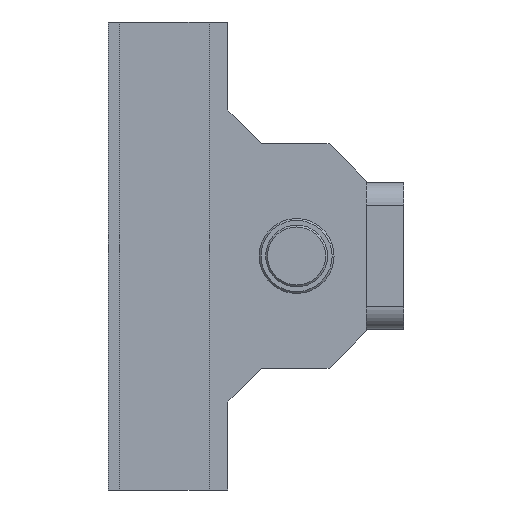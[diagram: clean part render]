
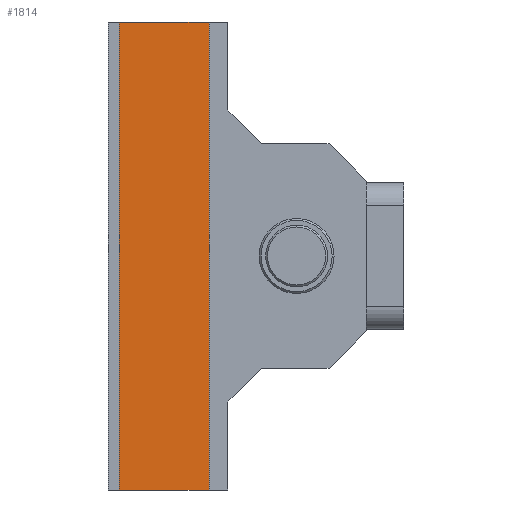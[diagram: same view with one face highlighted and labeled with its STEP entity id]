
A CAD part, left-side view. The second image highlights one B-rep face of the part: STEP entity #1814.
In plain terms, the highlighted planar face has unit normal (-1, 0, 0).
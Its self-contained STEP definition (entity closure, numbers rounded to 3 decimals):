
#61 = ORIENTED_EDGE ( 'NONE', *, *, #1948, .T. ) ;
#106 = EDGE_LOOP ( 'NONE', ( #2628, #61, #1365, #191 ) ) ;
#191 = ORIENTED_EDGE ( 'NONE', *, *, #1598, .F. ) ;
#213 = VECTOR ( 'NONE', #270, 1000. ) ;
#270 = DIRECTION ( 'NONE',  ( 0., 0., -1. ) ) ;
#332 = CARTESIAN_POINT ( 'NONE',  ( -16.5, 86., -62.5 ) ) ;
#355 = VERTEX_POINT ( 'NONE', #473 ) ;
#473 = CARTESIAN_POINT ( 'NONE',  ( -16.5, 62., -62.5 ) ) ;
#558 = CARTESIAN_POINT ( 'NONE',  ( -16.5, 86., 62.5 ) ) ;
#602 = DIRECTION ( 'NONE',  ( 0., -1., 0. ) ) ;
#852 = LINE ( 'NONE', #1911, #213 ) ;
#946 = EDGE_CURVE ( 'NONE', #1690, #355, #852, .T. ) ;
#1096 = CARTESIAN_POINT ( 'NONE',  ( -16.5, 86., 62.5 ) ) ;
#1105 = DIRECTION ( 'NONE',  ( 0., 1., 0. ) ) ;
#1160 = AXIS2_PLACEMENT_3D ( 'NONE', #1096, #1512, #1105 ) ;
#1185 = CARTESIAN_POINT ( 'NONE',  ( -16.5, 62., 62.5 ) ) ;
#1194 = LINE ( 'NONE', #2562, #1713 ) ;
#1245 = PLANE ( 'NONE',  #1160 ) ;
#1357 = DIRECTION ( 'NONE',  ( 0., -1., 0. ) ) ;
#1365 = ORIENTED_EDGE ( 'NONE', *, *, #946, .F. ) ;
#1433 = VERTEX_POINT ( 'NONE', #2450 ) ;
#1501 = EDGE_CURVE ( 'NONE', #1937, #1433, #2527, .T. ) ;
#1512 = DIRECTION ( 'NONE',  ( 1., 0., 0. ) ) ;
#1532 = DIRECTION ( 'NONE',  ( 0., 0., -1. ) ) ;
#1598 = EDGE_CURVE ( 'NONE', #1937, #1690, #1194, .T. ) ;
#1624 = FACE_OUTER_BOUND ( 'NONE', #106, .T. ) ;
#1690 = VERTEX_POINT ( 'NONE', #1185 ) ;
#1713 = VECTOR ( 'NONE', #602, 1000. ) ;
#1814 = ADVANCED_FACE ( 'NONE', ( #1624 ), #1245, .F. ) ;
#1838 = VECTOR ( 'NONE', #1532, 1000. ) ;
#1911 = CARTESIAN_POINT ( 'NONE',  ( -16.5, 62., 62.5 ) ) ;
#1912 = VECTOR ( 'NONE', #1357, 1000. ) ;
#1937 = VERTEX_POINT ( 'NONE', #558 ) ;
#1948 = EDGE_CURVE ( 'NONE', #1433, #355, #2182, .T. ) ;
#2182 = LINE ( 'NONE', #332, #1912 ) ;
#2450 = CARTESIAN_POINT ( 'NONE',  ( -16.5, 86., -62.5 ) ) ;
#2527 = LINE ( 'NONE', #2538, #1838 ) ;
#2538 = CARTESIAN_POINT ( 'NONE',  ( -16.5, 86., 62.5 ) ) ;
#2562 = CARTESIAN_POINT ( 'NONE',  ( -16.5, 86., 62.5 ) ) ;
#2628 = ORIENTED_EDGE ( 'NONE', *, *, #1501, .T. ) ;
